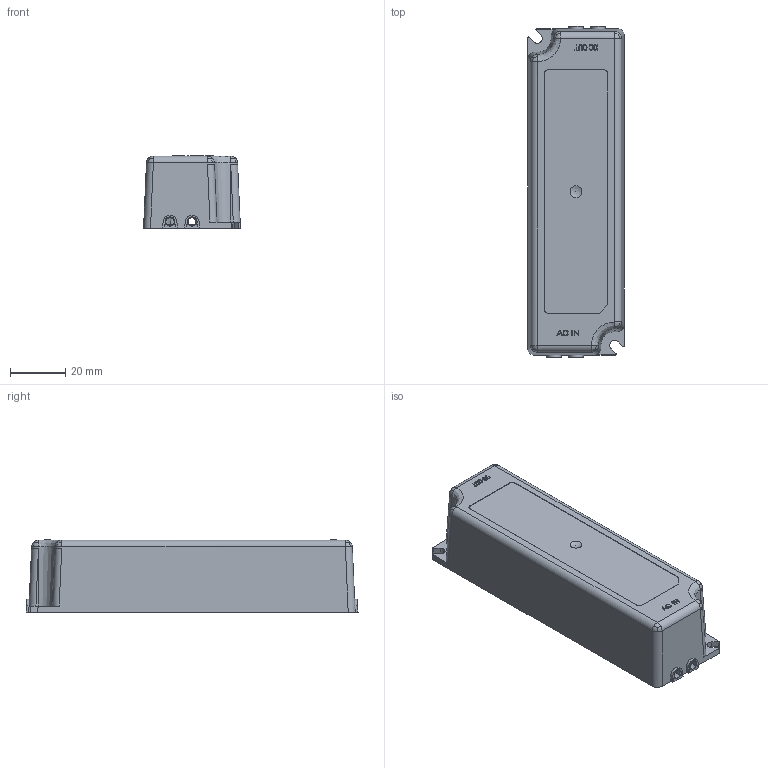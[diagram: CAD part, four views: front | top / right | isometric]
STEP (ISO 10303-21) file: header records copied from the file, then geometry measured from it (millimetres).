
FILE_DESCRIPTION(/* description */ (''),/* implementation_level */ '2;1');
FILE_NAME(/* name */ '972',/* time_stamp */ '2013-11-05T15:00:00+08:00',/* author */ (''),/* organization */ (''),/* preprocessor_version */ 'ST-DEVELOPER v9',/* originating_system */ 'UGS - NX 4.0',/* authorisation */ '');
FILE_SCHEMA (('CONFIG_CONTROL_DESIGN'));
Length unit declared in the file: millimetre
Products named in the file (1): gy-1CCC5rm1r
Bounding box: 35 x 120.04 x 26.1 mm (x, y, z)
Volume: 22051.8 mm3; surface area: 30117.7 mm2
Topology: 2 solids, 3 shells, 628 faces, 1734 edges, 1125 vertices
Faces by surface type: plane 397, cylinder 154, bspline 27, extrusion 26, cone 11, sphere 8, revolution 3, torus 2
Full cylindrical faces by diameter (mm): 1 x2
Entity records: 23671 total; most frequent: CARTESIAN_POINT 7994, ORIENTED_EDGE 3442, DIRECTION 2964, EDGE_CURVE 1721, VECTOR 1129, VERTEX_POINT 1119, LINE 1103, AXIS2_PLACEMENT_3D 916
